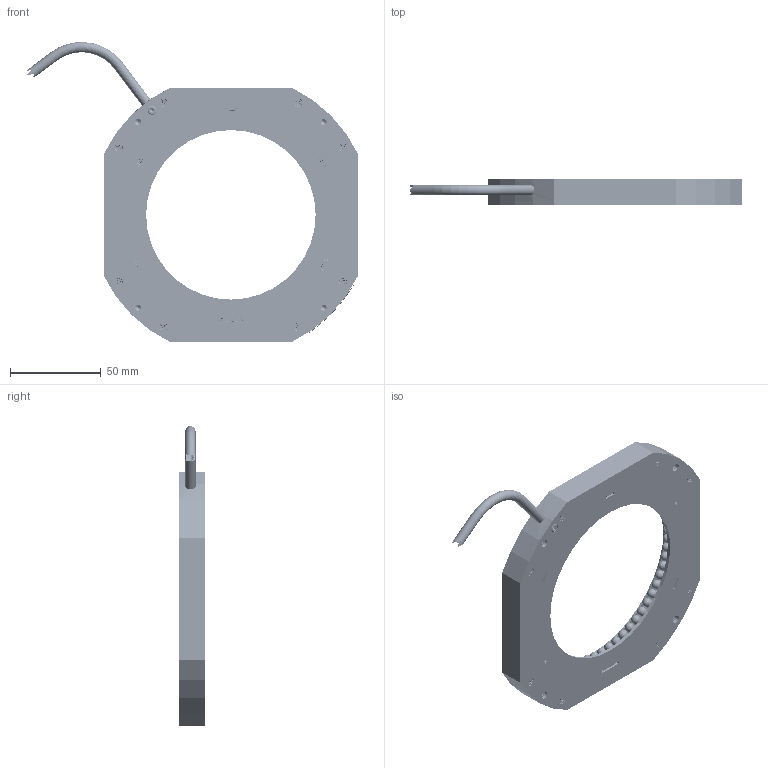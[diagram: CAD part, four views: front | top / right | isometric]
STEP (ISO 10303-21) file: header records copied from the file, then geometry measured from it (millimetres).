
FILE_DESCRIPTION (( 'STEP AP214' ), '1' );
FILE_NAME ('DF241_Default.stp', '2021-07-16T15:57:39', ( '' ), ( '' ), 'SwSTEP 2.0', 'SolidWorks 2018', '' );
FILE_SCHEMA (( 'AUTOMOTIVE_DESIGN' ));
Length unit declared in the file: inch
Products named in the file (12): BH-440X1_4_91239A704; 097106; FH-256X5_16; 095600_095600; 097105; 097364_Default<As Machined>; 097330; 092408_TRUNCATED; DF241_Default; WHIM1; 097104; 091052 RL1360
Assembly tree (77 placements, depth 3):
  DF241_Default
    097330
      097104
      097106
    WHIM1  x60
    097105
    095600_095600
    097364_Default<As Machined>
    FH-256X5_16  x8
    BH-440X1_4_91239A704
    091052 RL1360
    092408_TRUNCATED
Bounding box: 183.07 x 14.24 x 165.38 mm (x, y, z)
Volume: 76922 mm3; surface area: 73847 mm2
Topology: 83 solids, 83 shells, 13738 faces, 37298 edges, 24709 vertices
Faces by surface type: plane 8254, bspline 4366, cylinder 745, cone 247, sphere 122, torus 4
Entity records: 73300 total; most frequent: CARTESIAN_POINT 40865, ORIENTED_EDGE 6246, DIRECTION 4508, EDGE_CURVE 3123, VERTEX_POINT 2019, AXIS2_PLACEMENT_3D 1567, EDGE_LOOP 1434, VECTOR 1374
